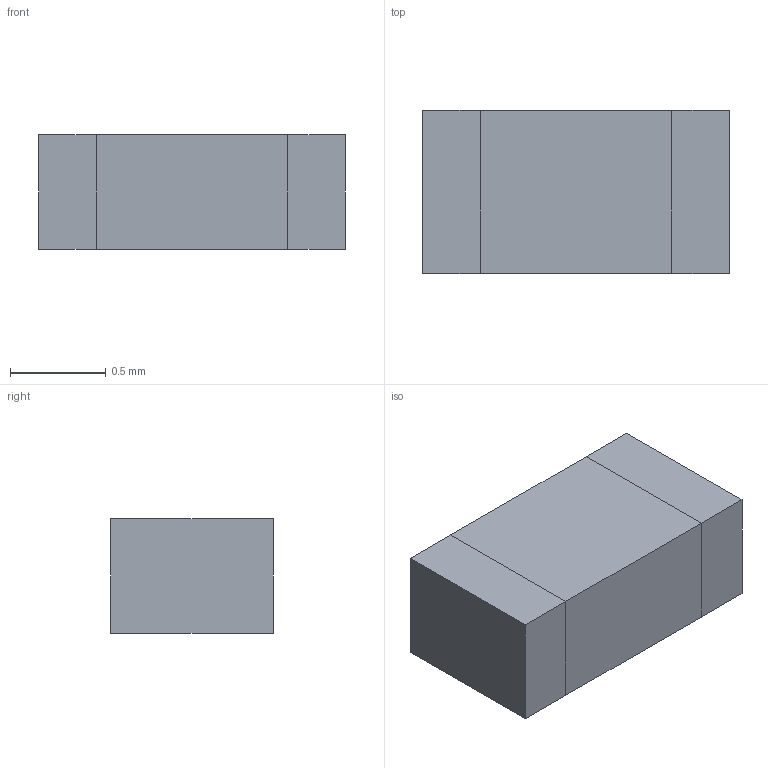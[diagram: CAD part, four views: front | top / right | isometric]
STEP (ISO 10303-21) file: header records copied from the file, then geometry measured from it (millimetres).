
FILE_DESCRIPTION(('shape.step'),'2;1');
FILE_NAME('shape.step','2026-10-04',('tscircuit'),('tscircuit'),'generator','','');
FILE_SCHEMA(('AUTOMOTIVE_DESIGN { 1 0 10303 214 1 1 1 1 }'));
Length unit declared in the file: millimetre
Products named in the file (1): shape
Bounding box: 1.6 x 0.85 x 0.6 mm (x, y, z)
Volume: 0.8 mm3; surface area: 7.7 mm2
Topology: 3 solids, 3 shells, 18 faces, 36 edges, 24 vertices
Faces by surface type: plane 18
Entity records: 454 total; most frequent: DIRECTION 74, ORIENTED_EDGE 72, CARTESIAN_POINT 43, VECTOR 36, LINE 36, EDGE_CURVE 36, VERTEX_POINT 24, AXIS2_PLACEMENT_3D 19
